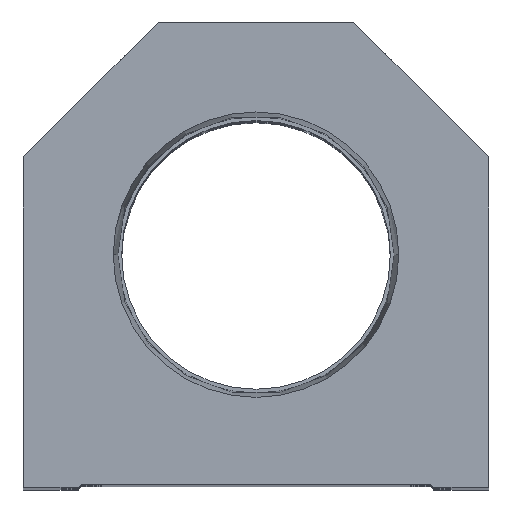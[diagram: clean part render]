
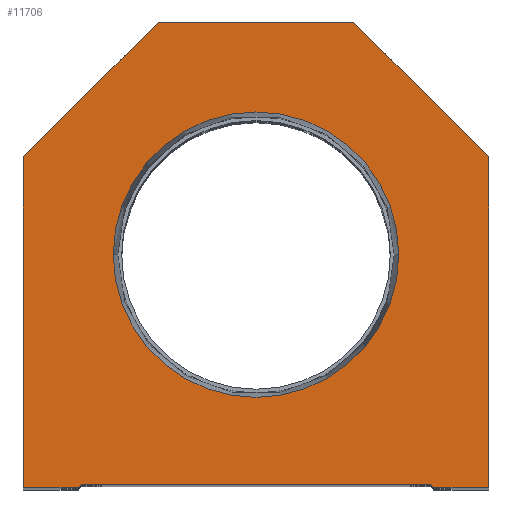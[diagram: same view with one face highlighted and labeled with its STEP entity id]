
A CAD part, top view. The second image highlights one B-rep face of the part: STEP entity #11706.
In plain terms, the highlighted planar face has unit normal (0, 0, 1).
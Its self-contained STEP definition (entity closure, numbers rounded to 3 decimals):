
#393 = DIRECTION ( 'NONE',  ( 0., 0., 1. ) ) ;
#421 = ORIENTED_EDGE ( 'NONE', *, *, #2477, .T. ) ;
#422 = CARTESIAN_POINT ( 'NONE',  ( -14.55, 14.55, 0. ) ) ;
#474 = CARTESIAN_POINT ( 'NONE',  ( -38.1, 54.1, 0. ) ) ;
#475 = VECTOR ( 'NONE', #1827, 1000. ) ;
#491 = CARTESIAN_POINT ( 'NONE',  ( -28.6, 0.5, 0. ) ) ;
#949 = VERTEX_POINT ( 'NONE', #13699 ) ;
#1577 = EDGE_CURVE ( 'NONE', #18663, #1833, #12898, .T. ) ;
#1827 = DIRECTION ( 'NONE',  ( 1., 0., 0. ) ) ;
#1831 = CARTESIAN_POINT ( 'NONE',  ( 0., 38.1, 0. ) ) ;
#1833 = VERTEX_POINT ( 'NONE', #4106 ) ;
#1897 = FACE_OUTER_BOUND ( 'NONE', #12491, .T. ) ;
#2269 = VECTOR ( 'NONE', #12723, 1000. ) ;
#2477 = EDGE_CURVE ( 'NONE', #11215, #17354, #17119, .T. ) ;
#2905 = LINE ( 'NONE', #16375, #18540 ) ;
#3378 = PLANE ( 'NONE',  #7196 ) ;
#3452 = CARTESIAN_POINT ( 'NONE',  ( 14.55, 14.55, 0. ) ) ;
#3562 = EDGE_CURVE ( 'NONE', #10973, #18663, #16472, .T. ) ;
#3903 = AXIS2_PLACEMENT_3D ( 'NONE', #1831, #393, #13783 ) ;
#3929 = VECTOR ( 'NONE', #13272, 1000. ) ;
#4106 = CARTESIAN_POINT ( 'NONE',  ( 16., 76.2, 0. ) ) ;
#4116 = CARTESIAN_POINT ( 'NONE',  ( -16., 76.2, 0. ) ) ;
#4444 = CARTESIAN_POINT ( 'NONE',  ( -28.6, 0., 0. ) ) ;
#4590 = CARTESIAN_POINT ( 'NONE',  ( 28.6, 0., 0. ) ) ;
#4645 = EDGE_CURVE ( 'NONE', #949, #7081, #17116, .T. ) ;
#4777 = EDGE_CURVE ( 'NONE', #1833, #10892, #2905, .T. ) ;
#5161 = DIRECTION ( 'NONE',  ( 0., 0., 1. ) ) ;
#5256 = VECTOR ( 'NONE', #6099, 1000. ) ;
#5401 = EDGE_CURVE ( 'NONE', #13169, #11786, #11616, .T. ) ;
#5705 = ORIENTED_EDGE ( 'NONE', *, *, #4777, .T. ) ;
#6099 = DIRECTION ( 'NONE',  ( 1., 0., 0. ) ) ;
#6122 = CARTESIAN_POINT ( 'NONE',  ( 29.1, 0., 0. ) ) ;
#6418 = FACE_BOUND ( 'NONE', #13926, .T. ) ;
#6518 = DIRECTION ( 'NONE',  ( 1., 0., 0. ) ) ;
#6779 = DIRECTION ( 'NONE',  ( 1., 0., 0. ) ) ;
#6798 = VECTOR ( 'NONE', #9873, 1000. ) ;
#6844 = CARTESIAN_POINT ( 'NONE',  ( -38.1, 0., 0. ) ) ;
#6901 = ORIENTED_EDGE ( 'NONE', *, *, #4645, .T. ) ;
#7081 = VERTEX_POINT ( 'NONE', #8652 ) ;
#7196 = AXIS2_PLACEMENT_3D ( 'NONE', #9528, #8020, #6518 ) ;
#7272 = AXIS2_PLACEMENT_3D ( 'NONE', #8188, #5161, #6779 ) ;
#7527 = VERTEX_POINT ( 'NONE', #7533 ) ;
#7533 = CARTESIAN_POINT ( 'NONE',  ( -29.1, 0., 0. ) ) ;
#7585 = CIRCLE ( 'NONE', #7272, 23.374 ) ;
#7710 = CARTESIAN_POINT ( 'NONE',  ( 38.1, 0., 0. ) ) ;
#8020 = DIRECTION ( 'NONE',  ( 0., 0., 1. ) ) ;
#8188 = CARTESIAN_POINT ( 'NONE',  ( 0., 38.1, 0. ) ) ;
#8390 = LINE ( 'NONE', #422, #2269 ) ;
#8652 = CARTESIAN_POINT ( 'NONE',  ( 28.6, 0.5, 0. ) ) ;
#8857 = CARTESIAN_POINT ( 'NONE',  ( 38.1, 0., 0. ) ) ;
#9314 = VECTOR ( 'NONE', #17219, 1000. ) ;
#9441 = ORIENTED_EDGE ( 'NONE', *, *, #5401, .F. ) ;
#9528 = CARTESIAN_POINT ( 'NONE',  ( 0., 0., 0. ) ) ;
#9796 = ORIENTED_EDGE ( 'NONE', *, *, #11732, .T. ) ;
#9873 = DIRECTION ( 'NONE',  ( 0., -1., 0. ) ) ;
#10056 = VECTOR ( 'NONE', #12576, 1000. ) ;
#10476 = VECTOR ( 'NONE', #16391, 1000. ) ;
#10723 = CARTESIAN_POINT ( 'NONE',  ( 23.374, 38.1, 0. ) ) ;
#10892 = VERTEX_POINT ( 'NONE', #4116 ) ;
#10973 = VERTEX_POINT ( 'NONE', #7710 ) ;
#11121 = VECTOR ( 'NONE', #12228, 1000. ) ;
#11215 = VERTEX_POINT ( 'NONE', #14183 ) ;
#11242 = EDGE_CURVE ( 'NONE', #7527, #949, #8390, .T. ) ;
#11616 = CIRCLE ( 'NONE', #3903, 23.374 ) ;
#11706 = ADVANCED_FACE ( 'NONE', ( #6418, #1897 ), #3378, .T. ) ;
#11732 = EDGE_CURVE ( 'NONE', #15439, #10973, #19950, .T. ) ;
#11786 = VERTEX_POINT ( 'NONE', #10723 ) ;
#12228 = DIRECTION ( 'NONE',  ( 0.707, -0.707, 0. ) ) ;
#12491 = EDGE_LOOP ( 'NONE', ( #19011, #14981, #6901, #17535, #9796, #13287, #18457, #5705, #16820, #421 ) ) ;
#12576 = DIRECTION ( 'NONE',  ( -0.707, -0.707, 0. ) ) ;
#12723 = DIRECTION ( 'NONE',  ( 0.707, 0.707, 0. ) ) ;
#12898 = LINE ( 'NONE', #18678, #9314 ) ;
#13169 = VERTEX_POINT ( 'NONE', #16695 ) ;
#13272 = DIRECTION ( 'NONE',  ( 0., 1., 0. ) ) ;
#13276 = CARTESIAN_POINT ( 'NONE',  ( -38.1, 0., 0. ) ) ;
#13287 = ORIENTED_EDGE ( 'NONE', *, *, #3562, .T. ) ;
#13699 = CARTESIAN_POINT ( 'NONE',  ( -28.6, 0.5, 0. ) ) ;
#13783 = DIRECTION ( 'NONE',  ( 1., 0., 0. ) ) ;
#13926 = EDGE_LOOP ( 'NONE', ( #16087, #9441 ) ) ;
#14183 = CARTESIAN_POINT ( 'NONE',  ( -38.1, 54.1, 0. ) ) ;
#14981 = ORIENTED_EDGE ( 'NONE', *, *, #11242, .T. ) ;
#15212 = EDGE_CURVE ( 'NONE', #17354, #7527, #18058, .T. ) ;
#15439 = VERTEX_POINT ( 'NONE', #6122 ) ;
#16087 = ORIENTED_EDGE ( 'NONE', *, *, #17840, .F. ) ;
#16368 = EDGE_CURVE ( 'NONE', #10892, #11215, #17297, .T. ) ;
#16375 = CARTESIAN_POINT ( 'NONE',  ( 16., 76.2, 0. ) ) ;
#16391 = DIRECTION ( 'NONE',  ( 1., 0., 0. ) ) ;
#16472 = LINE ( 'NONE', #8857, #3929 ) ;
#16695 = CARTESIAN_POINT ( 'NONE',  ( -23.374, 38.1, 0. ) ) ;
#16820 = ORIENTED_EDGE ( 'NONE', *, *, #16368, .T. ) ;
#17116 = LINE ( 'NONE', #491, #475 ) ;
#17119 = LINE ( 'NONE', #6844, #6798 ) ;
#17219 = DIRECTION ( 'NONE',  ( -0.707, 0.707, 0. ) ) ;
#17297 = LINE ( 'NONE', #474, #10056 ) ;
#17354 = VERTEX_POINT ( 'NONE', #13276 ) ;
#17535 = ORIENTED_EDGE ( 'NONE', *, *, #17773, .T. ) ;
#17773 = EDGE_CURVE ( 'NONE', #7081, #15439, #18799, .T. ) ;
#17840 = EDGE_CURVE ( 'NONE', #11786, #13169, #7585, .T. ) ;
#18058 = LINE ( 'NONE', #4444, #10476 ) ;
#18342 = DIRECTION ( 'NONE',  ( -1., 0., 0. ) ) ;
#18457 = ORIENTED_EDGE ( 'NONE', *, *, #1577, .T. ) ;
#18528 = CARTESIAN_POINT ( 'NONE',  ( 38.1, 54.1, 0. ) ) ;
#18540 = VECTOR ( 'NONE', #18342, 1000. ) ;
#18663 = VERTEX_POINT ( 'NONE', #18528 ) ;
#18678 = CARTESIAN_POINT ( 'NONE',  ( 38.1, 54.1, 0. ) ) ;
#18799 = LINE ( 'NONE', #3452, #11121 ) ;
#19011 = ORIENTED_EDGE ( 'NONE', *, *, #15212, .T. ) ;
#19950 = LINE ( 'NONE', #4590, #5256 ) ;
